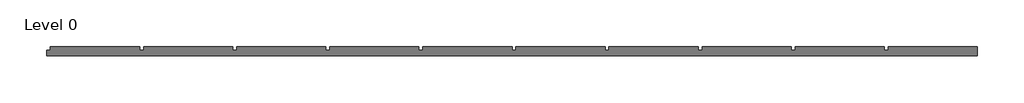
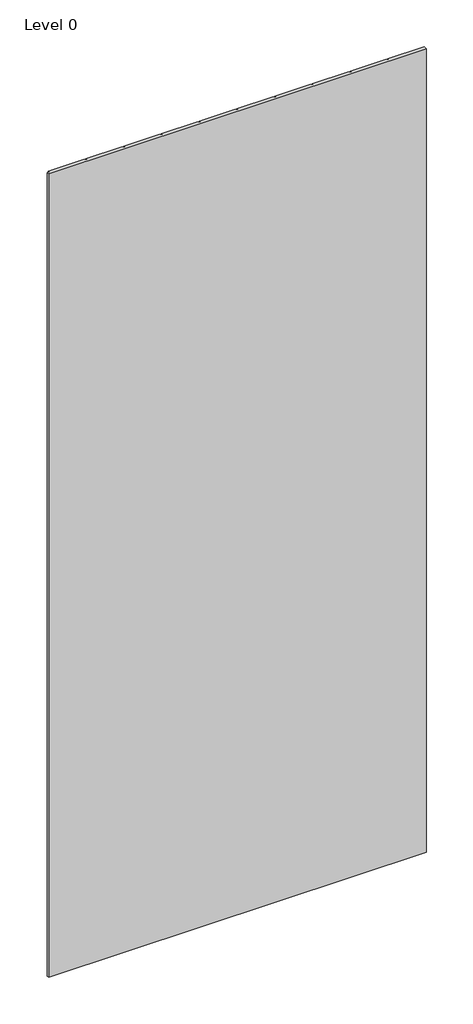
# One storey: 1 proxy.
"""IFC4 building model written with IfcOpenShell, lengths in millimetres."""

from ifc_helpers import new_model, si_unit, origin, place, context, project, spatial, transform, mapped, element, save
from components import generic_models_492d5cac

model = new_model("IFC4")

# Units and contexts
model_context = context("Model", 3, world=origin())
ifc_project = project(units=[si_unit("LENGTHUNIT", "METRE", prefix="MILLI")], contexts=[model_context])

# Site, building, storey
site = spatial("IfcSite", under=ifc_project)
building = spatial("IfcBuilding", under=site)
storey = spatial("IfcBuildingStorey", under=building, Name="Level 0", Elevation=0.0)

# Proxy
placement = place(None, origin())
generic_models_shape = generic_models_492d5cac(model_context)
element("IfcBuildingElementProxy", 1, Name="120 12mmSC", ObjectType="120 12mmSC", at=placement, inside=storey, context=model_context, shape_type="MappedRepresentation", body=[
    mapped(generic_models_shape, transform((-3635.9886212, 14866.8756495, 0.0), x_axis=(1.0, 0.0, 0.0), y_axis=(0.0, 1.0, 0.0), z_axis=(0.0, 0.0, 1.0))),
])

save(model, "model.ifc")
